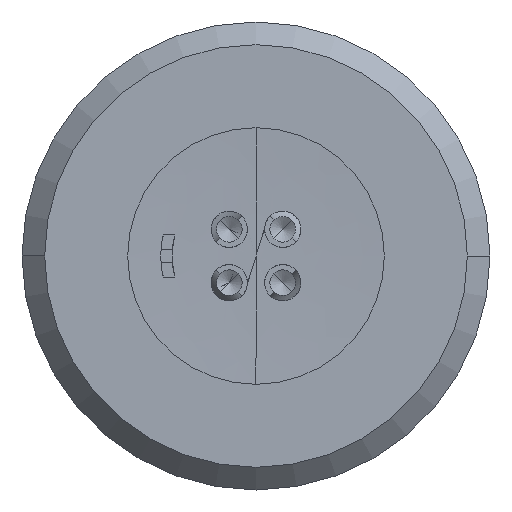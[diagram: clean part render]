
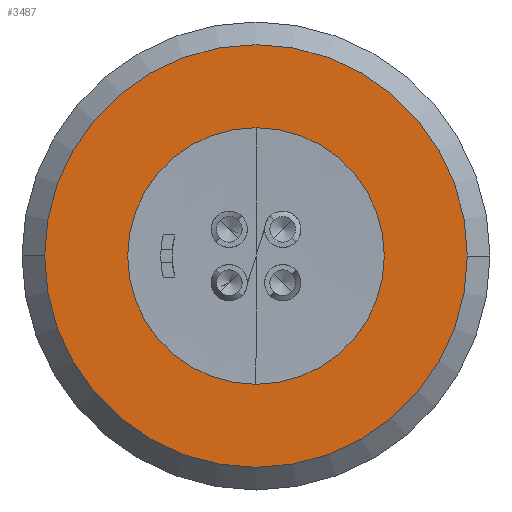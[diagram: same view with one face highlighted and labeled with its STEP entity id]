
A CAD part, left-side view. The second image highlights one B-rep face of the part: STEP entity #3487.
In plain terms, the highlighted planar face has unit normal (-1, 0, 0).
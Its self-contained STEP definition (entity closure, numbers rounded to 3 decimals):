
#316=CARTESIAN_POINT('',(-15.5,0.,0.));
#317=DIRECTION('',(1.,0.,0.));
#318=DIRECTION('',(0.,-1.,0.));
#319=AXIS2_PLACEMENT_3D('',#316,#317,#318);
#321=CARTESIAN_POINT('',(-15.5,0.,0.));
#322=DIRECTION('',(1.,0.,0.));
#323=DIRECTION('',(0.,0.,-1.));
#324=AXIS2_PLACEMENT_3D('',#321,#322,#323);
#326=CARTESIAN_POINT('',(-15.5,0.,0.));
#327=DIRECTION('',(1.,0.,0.));
#328=DIRECTION('',(0.,1.,0.));
#329=AXIS2_PLACEMENT_3D('',#326,#327,#328);
#331=CARTESIAN_POINT('',(-15.5,0.,0.));
#332=DIRECTION('',(1.,0.,0.));
#333=DIRECTION('',(0.,0.,1.));
#334=AXIS2_PLACEMENT_3D('',#331,#332,#333);
#336=CARTESIAN_POINT('',(-15.5,0.,0.));
#337=DIRECTION('',(-1.,0.,0.));
#338=DIRECTION('',(0.,-1.,0.));
#339=AXIS2_PLACEMENT_3D('',#336,#337,#338);
#341=CARTESIAN_POINT('',(-15.5,0.,0.));
#342=DIRECTION('',(-1.,0.,0.));
#343=DIRECTION('',(0.,1.,0.));
#344=AXIS2_PLACEMENT_3D('',#341,#342,#343);
#2649=CARTESIAN_POINT('',(-15.5,-4.25,0.));
#2650=VERTEX_POINT('',#2649);
#2651=CARTESIAN_POINT('',(-15.5,4.25,0.));
#2652=VERTEX_POINT('',#2651);
#2653=CARTESIAN_POINT('',(-15.5,-7.,0.));
#2654=CARTESIAN_POINT('',(-15.5,0.,-7.));
#2655=VERTEX_POINT('',#2653);
#2656=VERTEX_POINT('',#2654);
#2657=CARTESIAN_POINT('',(-15.5,7.,0.));
#2658=VERTEX_POINT('',#2657);
#2659=CARTESIAN_POINT('',(-15.5,0.,7.));
#2660=VERTEX_POINT('',#2659);
#3468=CARTESIAN_POINT('',(-15.5,0.,0.));
#3469=DIRECTION('',(1.,0.,0.));
#3470=DIRECTION('',(0.,-1.,0.));
#3471=AXIS2_PLACEMENT_3D('',#3468,#3469,#3470);
#3472=PLANE('',#3471);
#3474=ORIENTED_EDGE('',*,*,#3473,.T.);
#3476=ORIENTED_EDGE('',*,*,#3475,.T.);
#3478=ORIENTED_EDGE('',*,*,#3477,.T.);
#3480=ORIENTED_EDGE('',*,*,#3479,.T.);
#3481=EDGE_LOOP('',(#3474,#3476,#3478,#3480));
#3482=FACE_OUTER_BOUND('',#3481,.F.);
#3483=ORIENTED_EDGE('',*,*,#3455,.T.);
#3484=ORIENTED_EDGE('',*,*,#3432,.T.);
#3485=EDGE_LOOP('',(#3483,#3484));
#3486=FACE_BOUND('',#3485,.F.);
#320=CIRCLE('',#319,7.);
#325=CIRCLE('',#324,7.);
#330=CIRCLE('',#329,7.);
#335=CIRCLE('',#334,7.);
#340=CIRCLE('',#339,4.25);
#345=CIRCLE('',#344,4.25);
#3432=EDGE_CURVE('',#2652,#2650,#345,.T.);
#3455=EDGE_CURVE('',#2650,#2652,#340,.T.);
#3473=EDGE_CURVE('',#2655,#2656,#320,.T.);
#3475=EDGE_CURVE('',#2656,#2658,#325,.T.);
#3477=EDGE_CURVE('',#2658,#2660,#330,.T.);
#3479=EDGE_CURVE('',#2660,#2655,#335,.T.);
#3487=ADVANCED_FACE('',(#3482,#3486),#3472,.F.);
